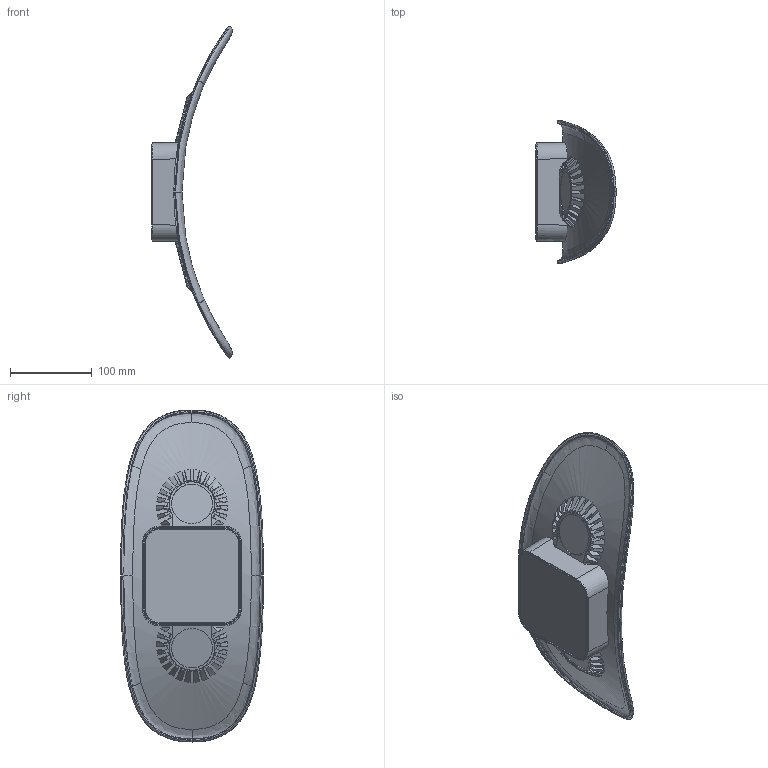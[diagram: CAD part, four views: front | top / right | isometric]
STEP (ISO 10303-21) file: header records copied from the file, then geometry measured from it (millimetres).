
FILE_DESCRIPTION(/* description */ (''),/* implementation_level */ '2;1');
FILE_NAME(/* name */ '1905-3~2',/* time_stamp */ '2020-04-29T16:13:49+02:00',/* author */ (''),/* organization */ (''),/* preprocessor_version */ 'ST-DEVELOPER v16.5',/* originating_system */ '',/* authorisation */ '');
FILE_SCHEMA (('AUTOMOTIVE_DESIGN'));
Length unit declared in the file: millimetre
Products named in the file (3): Document; GOM.005013; VET.005035
Assembly tree (3 placements, depth 2):
  Document
    GOM.005013
    VET.005035  x2
Bounding box: 98.5 x 175 x 406.34 mm (x, y, z)
Volume: 798506.3 mm3; surface area: 177226 mm2
Topology: 6 solids, 6 shells, 298 faces, 1067 edges, 787 vertices
Faces by surface type: bspline 157, plane 141
Entity records: 35606 total; most frequent: CARTESIAN_POINT 29197, ORIENTED_EDGE 2122, EDGE_CURVE 1061, B_SPLINE_CURVE_WITH_KNOTS 861, VERTEX_POINT 783, EDGE_LOOP 306, ADVANCED_FACE 294, FACE_OUTER_BOUND 294
